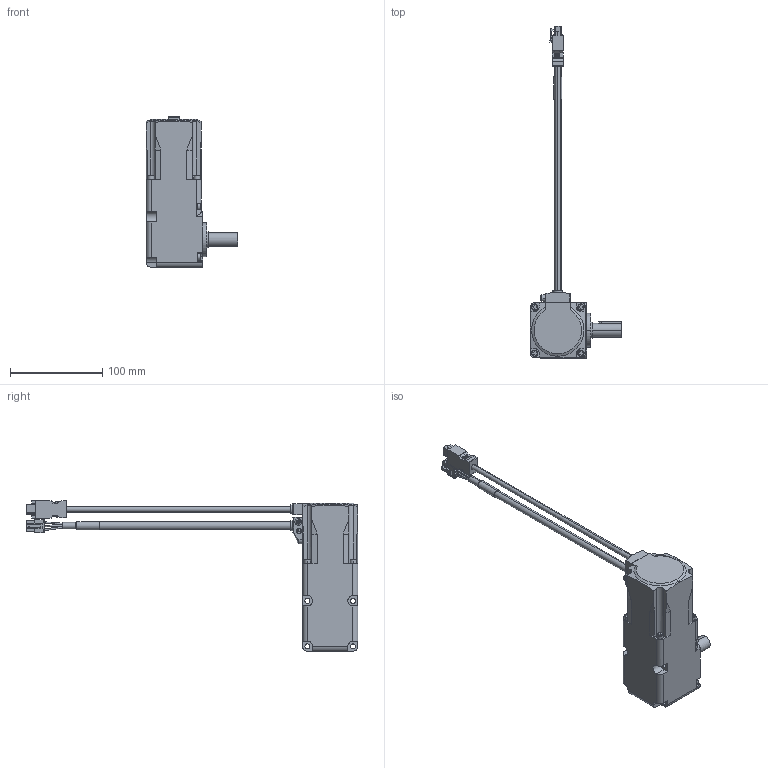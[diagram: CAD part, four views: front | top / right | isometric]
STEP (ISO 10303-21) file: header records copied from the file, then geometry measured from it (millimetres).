
FILE_DESCRIPTION (( 'STEP AP203' ), '1' );
FILE_NAME ('B1318.step', '2019-07-24T05:50:39', ( 'Hewlett-Packard Company' ), ( 'Hewlett-Packard Company' ), 'SwSTEP 2.0', 'SolidWorks 2017', '' );
FILE_SCHEMA (( 'CONFIG_CONTROL_DESIGN' ));
Length unit declared in the file: millimetre
Products named in the file (1): B1318
Bounding box: 99.5 x 360 x 163.4 mm (x, y, z)
Volume: 594393.6 mm3; surface area: 72661.5 mm2
Topology: 1 solids, 14 shells, 790 faces, 2046 edges, 1337 vertices
Faces by surface type: plane 582, cylinder 166, torus 23, bspline 11, cone 6, sphere 2
Entity records: 25157 total; most frequent: CARTESIAN_POINT 5541, ORIENTED_EDGE 4088, DIRECTION 3929, EDGE_CURVE 2044, LINE 1567, VECTOR 1567, VERTEX_POINT 1337, AXIS2_PLACEMENT_3D 1181
